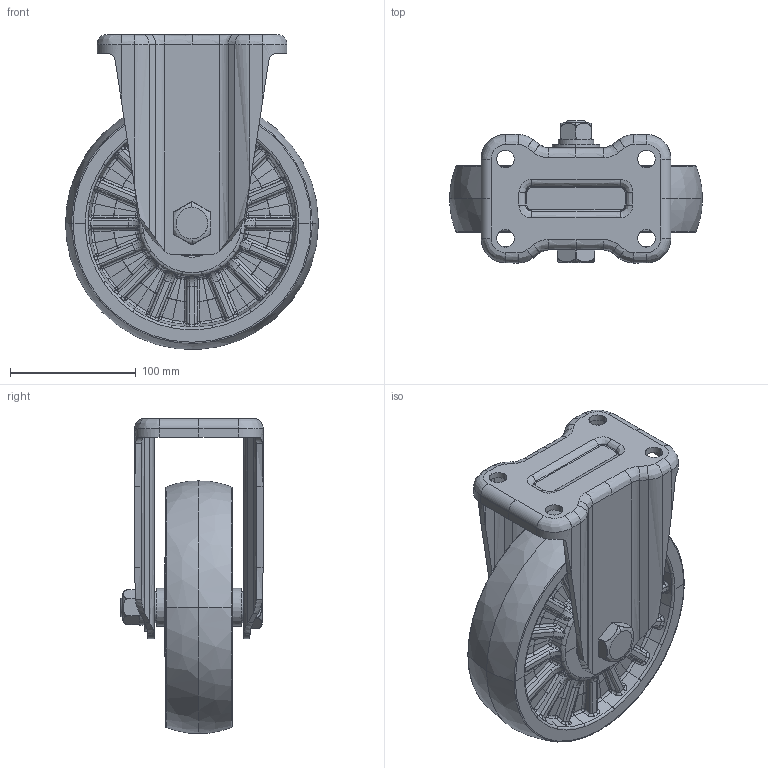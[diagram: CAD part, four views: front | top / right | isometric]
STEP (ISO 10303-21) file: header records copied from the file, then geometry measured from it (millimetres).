
FILE_DESCRIPTION (( 'STEP AP214' ), '1' );
FILE_NAME ('HE-200WK_step.STEP', '2024-02-08T04:43:17', ( 'sakai' ), ( 'Hewlett-Packard' ), 'SwSTEP 2.0', 'SolidWorks 2010', '' );
FILE_SCHEMA (( 'AUTOMOTIVE_DESIGN' ));
Length unit declared in the file: millimetre
Products named in the file (7): HE-200WK-10; HE-200WK-20; HE-200WK-30; HE-200WK-40; HE-200WK-50; HE-200WK-60; HE-200WK_step
Assembly tree (6 placements, depth 2):
  HE-200WK_step
    HE-200WK-60
    HE-200WK-20
    HE-200WK-30
    HE-200WK-10
    HE-200WK-50
    HE-200WK-40
Bounding box: 201 x 113 x 250.37 mm (x, y, z)
Volume: 1569746.4 mm3; surface area: 281884.3 mm2
Topology: 16 solids, 16 shells, 1963 faces, 5187 edges, 3104 vertices
Faces by surface type: bspline 1801, plane 162
Entity records: 191278 total; most frequent: CARTESIAN_POINT 155342, ORIENTED_EDGE 10118, EDGE_CURVE 5059, B_SPLINE_CURVE_WITH_KNOTS 4698, VERTEX_POINT 3104, EDGE_LOOP 1979, FACE_OUTER_BOUND 1963, ADVANCED_FACE 1963
